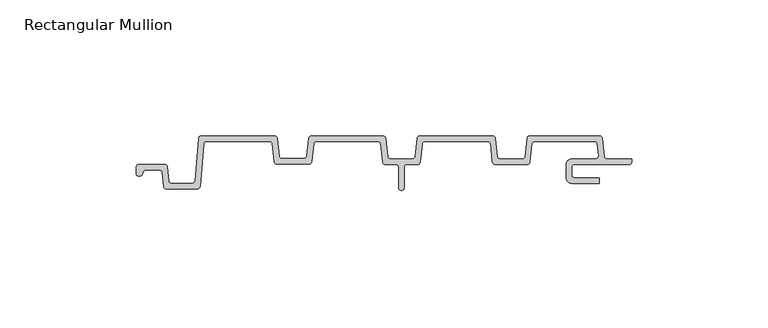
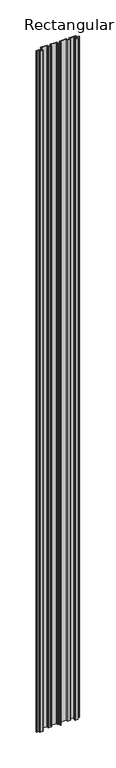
"""IFC4 building model written with IfcOpenShell, lengths in millimetres: member geometry, Rectangular Mullion : Cladding_Aluminium_Modinex_AluSelekta_Castelation_ScreenClad_160Ultra_AfricanEbony."""

import ifcopenshell
import ifcopenshell.guid

model = None  # the IFC model being written
_history = None  # IfcOwnerHistory: only IFC2X3 demands one
_inside = {}  # id of a spatial element -> (the spatial element, [elements in it])
_under = {}  # id of a project, library or spatial element -> (it, [spatial elements below it])
_declared = {}  # id of a project -> (the project, [libraries it declares])
_typed = {}  # id of a type object -> (the type object, [elements of that type])
_made_of = {}  # id of a material, layer set ... -> (it, [elements and type objects made of it])


def new_model(schema):
    """Start an empty IFC model of exactly this schema.

    Asked for "IFC4X3", IfcOpenShell would pick the latest addendum, in which some entities
    have other attributes; the version numbers below select the first issue.
    IFC2X3 requires an IfcOwnerHistory on every rooted entity: one is made here for all.
    """
    global model, _history
    if schema == "IFC4X3":
        model = ifcopenshell.file(schema_version=(4, 3, 0, 0))
    else:
        model = ifcopenshell.file(schema=schema)
    _inside.clear()
    _under.clear()
    _declared.clear()
    _typed.clear()
    _made_of.clear()
    _history = None
    if model.schema == "IFC2X3":
        org = make("IfcOrganization", Name="unknown")
        user = make(
            "IfcPersonAndOrganization",
            ThePerson=make("IfcPerson", FamilyName="unknown"),
            TheOrganization=org,
        )
        app = make(
            "IfcApplication",
            ApplicationDeveloper=org,
            Version="unknown",
            ApplicationFullName="unknown",
            ApplicationIdentifier="unknown",
        )
        _history = make(
            "IfcOwnerHistory",
            OwningUser=user,
            OwningApplication=app,
            ChangeAction="ADDED",
            CreationDate=0,
        )
    return model


def make(cls, **values):
    """One entity of the class cls with the attributes given. An attribute that is None is left unset."""
    return model.create_entity(
        cls, **{name: value for name, value in values.items() if value is not None}
    )


def rooted(cls, **values):
    """An entity with a GlobalId (a new one), such as an element, a storey or a relation."""
    return make(cls, GlobalId=ifcopenshell.guid.new(), OwnerHistory=_history, **values)


def si_unit(unit_type, name, prefix=None):
    """IfcSIUnit, for example si_unit("LENGTHUNIT", "METRE", prefix="MILLI")."""
    return make("IfcSIUnit", UnitType=unit_type, Prefix=prefix, Name=name)


def assignment(units):
    """IfcUnitAssignment: the units of a project."""
    return None if units is None else make("IfcUnitAssignment", Units=units)


def point(xyz):
    """IfcCartesianPoint."""
    return None if xyz is None else make("IfcCartesianPoint", Coordinates=xyz)


def direction(xyz):
    """IfcDirection."""
    return None if xyz is None else make("IfcDirection", DirectionRatios=xyz)


def frame(location, z_axis=None, x_axis=None):
    """IfcAxis2Placement3D, a coordinate frame: its origin and axes. An axis left out is left unset."""
    return make(
        "IfcAxis2Placement3D",
        Location=point(location),
        Axis=direction(z_axis),
        RefDirection=direction(x_axis),
    )


def origin():
    """The frame at (0, 0, 0) with its axes left unset."""
    return frame((0.0, 0.0, 0.0))


def place(relative_to, where):
    """IfcLocalPlacement: puts the frame where relative to a parent placement (None: the world)."""
    return make(
        "IfcLocalPlacement", PlacementRelTo=relative_to, RelativePlacement=where
    )


def context(
    kind, dimensions, precision=None, world=None, true_north=None, identifier=None
):
    """IfcGeometricRepresentationContext, for example the 3D "Model" context."""
    return make(
        "IfcGeometricRepresentationContext",
        ContextIdentifier=identifier,
        ContextType=kind,
        CoordinateSpaceDimension=dimensions,
        Precision=precision,
        WorldCoordinateSystem=world,
        TrueNorth=true_north,
    )


def project(units=None, contexts=None):
    """IfcProject with its units and contexts."""
    return rooted(
        "IfcProject",
        Name="project",
        RepresentationContexts=contexts,
        UnitsInContext=assignment(units),
    )


def spatial(cls, under=None, at=None, **own):
    """A site, building, storey or space (cls), placed at a placement, below another one or the project."""
    s = rooted(cls, ObjectPlacement=at, **own)
    if under is not None:
        _under.setdefault(under.id(), (under, []))[1].append(s)
    return s


def polyline(points):
    """IfcPolyline through the points."""
    return make("IfcPolyline", Points=[point(p) for p in points])


def circle_curve(where, radius):
    """IfcCircle in the frame where."""
    return make("IfcCircle", Position=where, Radius=radius)


def shape(context_of_items, identifier, shape_type, items):
    """IfcShapeRepresentation: the items that make up one representation, for example the "Body"."""
    return make(
        "IfcShapeRepresentation",
        ContextOfItems=context_of_items,
        RepresentationIdentifier=identifier,
        RepresentationType=shape_type,
        Items=items,
    )


def source(mapping_origin, context_of_items, identifier, shape_type, items):
    """IfcRepresentationMap: a shape defined once, which mapped items show again and again."""
    return make(
        "IfcRepresentationMap",
        MappingOrigin=mapping_origin,
        MappedRepresentation=shape(context_of_items, identifier, shape_type, items),
    )


def transform(
    local_origin,
    x_axis=None,
    y_axis=None,
    z_axis=None,
    scale=None,
    scale2=None,
    scale3=None,
    uniform=True,
):
    """IfcCartesianTransformationOperator3D, or its non-uniform kind. x_axis, y_axis, z_axis: its Axis1, 2, 3."""
    if uniform:
        return make(
            "IfcCartesianTransformationOperator3D",
            Axis1=direction(x_axis),
            Axis2=direction(y_axis),
            LocalOrigin=point(local_origin),
            Scale=scale,
            Axis3=direction(z_axis),
        )
    return make(
        "IfcCartesianTransformationOperator3DnonUniform",
        Axis1=direction(x_axis),
        Axis2=direction(y_axis),
        LocalOrigin=point(local_origin),
        Scale=scale,
        Axis3=direction(z_axis),
        Scale2=scale2,
        Scale3=scale3,
    )


def mapped(mapping_source, mapping_target):
    """IfcMappedItem: shows the shape of a source again, moved by a transform."""
    return make(
        "IfcMappedItem", MappingSource=mapping_source, MappingTarget=mapping_target
    )


def made_of(thing, what):
    """Note that an element or type object is made of a material, layer set ...; save() writes the relation."""
    if what is not None:
        _made_of.setdefault(what.id(), (what, []))[1].append(thing)
    return thing


def element(
    cls,
    number,
    at=None,
    inside=None,
    cuts=None,
    type_object=None,
    material=None,
    context=None,
    identifier="Body",
    shape_type=None,
    held_by="IfcProductDefinitionShape",
    body=None,
    shapes=None,
    **own,
):
    """One element of the class cls, such as IfcWall. Its Tag is "e" and its number.

    at: its placement. inside: the storey or other place that contains it. cuts: it is an
    opening in that element (IfcRelVoidsElement). A single representation is given by context,
    identifier, shape_type and body (its items); several are given by shapes. held_by: the class
    of the entity that holds the representations. save() writes the other relations.
    """
    e = rooted(cls, Tag="e%d" % number, ObjectPlacement=at, **own)
    if body is not None:
        shapes = [shape(context, identifier, shape_type, body)]
    if shapes is not None:
        e.Representation = make(held_by, Representations=shapes)
    if inside is not None:
        _inside.setdefault(inside.id(), (inside, []))[1].append(e)
    if cuts is not None:
        rooted(
            "IfcRelVoidsElement", RelatingBuildingElement=cuts, RelatedOpeningElement=e
        )
    if type_object is not None:
        _typed.setdefault(type_object.id(), (type_object, []))[1].append(e)
    return made_of(e, material)


def aggregate(whole, parts):
    """IfcRelAggregates: a whole, such as a stair, and the parts it consists of."""
    return rooted("IfcRelAggregates", RelatingObject=whole, RelatedObjects=parts)


def save(model, path):
    """Write the relations noted so far, then the file.

    IfcRelAggregates (storeys below a building ...), IfcRelContainedInSpatialStructure (elements
    in a storey), IfcRelDefinesByType, IfcRelAssociatesMaterial and IfcRelDeclares: one each for
    every whole, place, type object, material and project.
    """
    for whole, parts in _under.values():
        aggregate(whole, parts)
    for where, things in _inside.values():
        rooted(
            "IfcRelContainedInSpatialStructure",
            RelatedElements=things,
            RelatingStructure=where,
        )
    for kind, things in _typed.values():
        rooted("IfcRelDefinesByType", RelatedObjects=things, RelatingType=kind)
    for what, things in _made_of.values():
        rooted("IfcRelAssociatesMaterial", RelatedObjects=things, RelatingMaterial=what)
    for by, libraries in _declared.values():
        rooted("IfcRelDeclares", RelatingContext=by, RelatedDefinitions=libraries)
    model.write(path)


def plane_surface(at):
    """IfcPlane: the flat surface through the origin of the frame at, square to its z axis."""
    return make("IfcPlane", Position=at)


def cylinder_surface(at, radius):
    """IfcCylindricalSurface: all points at the distance radius from the z axis of the frame at."""
    return make("IfcCylindricalSurface", Position=at, Radius=radius)


def revolved_surface(curve, axis_point, axis_direction):
    """IfcSurfaceOfRevolution: the curve turned about the line through axis_point along axis_direction."""
    return make(
        "IfcSurfaceOfRevolution",
        SweptCurve=make("IfcArbitraryOpenProfileDef", ProfileType="CURVE", Curve=curve),
        AxisPosition=make("IfcAxis1Placement", Location=point(axis_point), Axis=direction(axis_direction)),
    )


def advanced_brep(points, edges, surfaces, faces):
    """IfcAdvancedBrep: a solid bounded by faces that lie on surfaces and meet in shared edges.

    An edge is (start, end): straight between two places in points (the first is 0);
    or (start, end, curve); or (start, end, curve, False) where it runs against its curve.
    A face is (place in surfaces, loops), or (place, loops, False) where it looks against
    its surface's normal. A loop lists edges by number (the first is 1), with a minus sign
    where the edge is run from its end to its start. The first loop is the outer one.
    """
    corners = [point(p) for p in points]
    vertices = [make("IfcVertexPoint", VertexGeometry=c) for c in corners]
    made = []
    for start, end, *more in edges:
        made.append(
            make(
                "IfcEdgeCurve",
                EdgeStart=vertices[start],
                EdgeEnd=vertices[end],
                EdgeGeometry=more[0] if more else make("IfcPolyline", Points=[corners[start], corners[end]]),
                SameSense=more[1] if len(more) > 1 else True,
            )
        )
    hull = []
    for where, loops, *sense in faces:
        bounds = []
        for j, loop in enumerate(loops):
            ring = [make("IfcOrientedEdge", EdgeElement=made[abs(k) - 1], Orientation=k > 0) for k in loop]
            bounds.append(
                make(
                    "IfcFaceOuterBound" if j == 0 else "IfcFaceBound",
                    Bound=make("IfcEdgeLoop", EdgeList=ring),
                    Orientation=True,
                )
            )
        hull.append(make("IfcAdvancedFace", Bounds=bounds, FaceSurface=surfaces[where], SameSense=sense[0] if sense else True))
    return make("IfcAdvancedBrep", Outer=make("IfcClosedShell", CfsFaces=hull))


def rectangular_mullion_73ab8564(model_context):
    return source(origin(), model_context, "Body", "AdvancedBrep", [
        advanced_brep(
        [(148.1602589, 20.0, 0.0), (122.4765681, 20.0, 0.0), (121.5130852, 19.1324761, 0.0), (120.809973, 12.44281, 0.0), (119.8133055, 11.5454066, 0.0), (111.5756582, 11.5454066, 0.0), (110.6257569, 12.4007015, 0.0), (109.9200552, 19.115005, 0.0), (108.9371687, 20.0, 0.0), (82.1423242, 20.0, 0.0), (81.1821995, 19.1354998, 0.0), (80.4798524, 12.4531135, 0.0), (79.4937471, 11.5652203, 0.0), (71.3225217, 11.5652203, 0.0), (70.2886934, 12.4960834, 0.0), (69.5912178, 19.1321205, 0.0), (68.62734, 20.0, 0.0), (42.3833962, 20.0, 0.0), (41.3513925, 19.0707797, 0.0), (40.6676465, 12.5653714, 0.0), (39.6854694, 11.6810151, 0.0), (31.4649351, 11.6810151, 0.0), (30.4827579, 12.5653714, 0.0), (29.7974463, 19.0760608, 0.0), (28.7713079, 20.0, 0.0), (1.9138829, 20.0, 0.0), (0.923703, 19.0893075, 0.0), (-0.3833621, 3.487992, 0.0), (-1.3753125, 2.5756712, 0.0), (-9.1200976, 2.5756712, 0.0), (-10.0804388, 3.4556618, 0.0), (-10.5259845, 8.5482728, 0.0), (-11.510796, 9.4506863, 0.0), (-21.0140298, 9.4506863, 0.0), (-22.0, 8.4647161, 0.0), (-22.0, 6.2482227, 0.0), (-20.8523694, 5.2397106, 0.0), (-19.8110334, 5.8709666, 0.0), (-19.4708589, 6.8055885, 0.0), (-18.5495637, 7.4506863, 0.0), (-13.3768988, 7.4506863, 0.0), (-12.3557323, 6.5149597, 0.0), (-11.9131934, 1.4567168, 0.0), (-10.9517008, 0.5756712, 0.0), (0.4714254, 0.5756712, 0.0), (1.4554776, 1.4807279, 0.0), (2.7629042, 17.0863575, 0.0), (3.7562917, 18.0, 0.0), (27.0330675, 18.0, 0.0), (27.9900981, 17.1382857, 0.0), (28.682504, 10.5504841, 0.0), (29.6481471, 9.6810151, 0.0), (41.4579318, 9.6810151, 0.0), (42.4714176, 10.5935618, 0.0), (43.1543153, 17.0908994, 0.0), (44.1639737, 18.0, 0.0), (66.7630477, 18.0, 0.0), (67.7970456, 17.0689841, 0.0), (68.4905354, 10.4708694, 0.0), (69.4963607, 9.5652203, 0.0), (73.398788, 9.5652203, 0.0), (74.398788, 8.5652203, 0.0), (74.398788, 1.0, 0.0), (76.398788, 1.0, 0.0), (76.398788, 8.5652203, 0.0), (77.398788, 9.5652203, 0.0), (81.3012153, 9.5652203, 0.0), (82.2799643, 10.4464898, 0.0), (82.9804289, 17.1109646, 0.0), (83.9678027, 18.0, 0.0), (107.1183499, 18.0, 0.0), (108.1211298, 17.097093, 0.0), (108.8183267, 10.4637071, 0.0), (109.8382028, 9.5454066, 0.0), (121.6376257, 9.5454066, 0.0), (122.6083234, 10.4194267, 0.0), (123.3115748, 17.1104167, 0.0), (124.2995571, 18.0, 0.0), (146.3008245, 18.0, 0.0), (147.3133998, 17.0882732, 0.0), (147.7761303, 12.6856863, 0.0), (146.7710049, 11.5693815, 0.0), (137.950859, 11.5693815, 0.0), (135.950859, 9.5693815, 0.0), (135.950859, 4.6193278, 0.0), (137.950859, 2.6193278, 0.0), (147.950859, 2.6193278, 0.0), (147.950859, 4.5693815, 0.0), (138.9358682, 4.5693815, 0.0), (137.950859, 5.5543908, 0.0), (137.950859, 8.6144534, 0.0), (138.9057871, 9.5693815, 0.0), (158.9750981, 9.5693815, 0.0), (160.0, 10.5942835, 0.0), (160.0, 11.5693815, 0.0), (150.7652107, 11.5693815, 0.0), (149.8145038, 12.4254019, 0.0), (149.1080797, 19.1465783, 0.0), (148.1602589, 20.0, -3000.0), (149.1080797, 19.1465783, -3000.0), (149.8145038, 12.4254019, -3000.0), (150.7652107, 11.5693815, -3000.0), (160.0, 11.5693815, -3000.0), (160.0, 10.5942835, -3000.0), (158.9750981, 9.5693815, -3000.0), (138.9057871, 9.5693815, -3000.0), (137.950859, 8.6144534, -3000.0), (137.950859, 5.5543908, -3000.0), (138.9358682, 4.5693815, -3000.0), (147.950859, 4.5693815, -3000.0), (147.950859, 2.6193278, -3000.0), (137.950859, 2.6193278, -3000.0), (135.950859, 4.6193278, -3000.0), (135.950859, 9.5693815, -3000.0), (137.950859, 11.5693815, -3000.0), (146.7710049, 11.5693815, -3000.0), (147.7761303, 12.6856863, -3000.0), (147.3133998, 17.0882732, -3000.0), (146.3008245, 18.0, -3000.0), (124.2995571, 18.0, -3000.0), (123.3115748, 17.1104167, -3000.0), (122.6083234, 10.4194267, -3000.0), (121.6376257, 9.5454066, -3000.0), (109.8382028, 9.5454066, -3000.0), (108.8183267, 10.4637071, -3000.0), (108.1211298, 17.097093, -3000.0), (107.1183499, 18.0, -3000.0), (83.9678027, 18.0, -3000.0), (82.9804289, 17.1109646, -3000.0), (82.2799643, 10.4464898, -3000.0), (81.3012153, 9.5652203, -3000.0), (77.398788, 9.5652203, -3000.0), (76.398788, 8.5652203, -3000.0), (76.398788, 1.0, -3000.0), (74.398788, 1.0, -3000.0), (74.398788, 8.5652203, -3000.0), (73.398788, 9.5652203, -3000.0), (69.4963607, 9.5652203, -3000.0), (68.4905354, 10.4708694, -3000.0), (67.7970456, 17.0689841, -3000.0), (66.7630477, 18.0, -3000.0), (44.1639737, 18.0, -3000.0), (43.1543153, 17.0908994, -3000.0), (42.4714176, 10.5935618, -3000.0), (41.4579318, 9.6810151, -3000.0), (29.6481471, 9.6810151, -3000.0), (28.682504, 10.5504841, -3000.0), (27.9900981, 17.1382857, -3000.0), (27.0330675, 18.0, -3000.0), (3.7562917, 18.0, -3000.0), (2.7629042, 17.0863575, -3000.0), (1.4554776, 1.4807279, -3000.0), (0.4714254, 0.5756712, -3000.0), (-10.9517008, 0.5756712, -3000.0), (-11.9131934, 1.4567168, -3000.0), (-12.3557323, 6.5149597, -3000.0), (-13.3768988, 7.4506863, -3000.0), (-18.5495637, 7.4506863, -3000.0), (-19.4708589, 6.8055885, -3000.0), (-19.8110334, 5.8709666, -3000.0), (-20.8523694, 5.2397106, -3000.0), (-22.0, 6.2482227, -3000.0), (-22.0, 8.4647161, -3000.0), (-21.0140298, 9.4506863, -3000.0), (-11.510796, 9.4506863, -3000.0), (-10.5259845, 8.5482728, -3000.0), (-10.0804388, 3.4556618, -3000.0), (-9.1200976, 2.5756712, -3000.0), (-1.3753125, 2.5756712, -3000.0), (-0.3833621, 3.487992, -3000.0), (0.923703, 19.0893075, -3000.0), (1.9138829, 20.0, -3000.0), (28.7713079, 20.0, -3000.0), (29.7974463, 19.0760608, -3000.0), (30.4817584, 12.5652664, -3000.0), (31.4649351, 11.6810151, -3000.0), (39.6854694, 11.6810151, -3000.0), (40.6676465, 12.5653714, -3000.0), (41.3513925, 19.0707797, -3000.0), (42.3833962, 20.0, -3000.0), (68.62734, 20.0, -3000.0), (69.5912178, 19.1321205, -3000.0), (70.2886934, 12.4960834, -3000.0), (71.3225217, 11.5652203, -3000.0), (79.4937471, 11.5652203, -3000.0), (80.4798524, 12.4531135, -3000.0), (81.1821995, 19.1354998, -3000.0), (82.1423242, 20.0, -3000.0), (108.9371687, 20.0, -3000.0), (109.9200552, 19.115005, -3000.0), (110.6257569, 12.4007015, -3000.0), (111.5756582, 11.5454066, -3000.0), (119.8133055, 11.5454066, -3000.0), (120.809973, 12.44281, -3000.0), (121.5130852, 19.1324761, -3000.0), (122.4765681, 20.0, -3000.0)],
        [
            (0, 1),
            (1, 2, circle_curve(frame((122.4765681, 19.03121, 0.0), z_axis=(0.0, 0.0, 1.0), x_axis=(1.0, 0.0, 0.0)), 0.96879)),
            (2, 3),
            (3, 4, circle_curve(frame((119.8133055, 12.5475639, 0.0), z_axis=(0.0, 0.0, -1.0), x_axis=(1.0, 0.0, 0.0)), 1.0021574)),
            (4, 5),
            (5, 6, circle_curve(frame((111.5756582, 12.5005401, 0.0), z_axis=(0.0, 0.0, -1.0), x_axis=(1.0, 0.0, 0.0)), 0.9551336)),
            (6, 7),
            (7, 8, circle_curve(frame((108.9371687, 19.0116994, 0.0), z_axis=(0.0, 0.0, 1.0), x_axis=(1.0, 0.0, 0.0)), 0.9883006)),
            (8, 9),
            (9, 10, circle_curve(frame((82.1423242, 19.0345866, 0.0), z_axis=(0.0, 0.0, 1.0), x_axis=(1.0, 0.0, 0.0)), 0.9654134)),
            (10, 11),
            (11, 12, circle_curve(frame((79.4937471, 12.5567573, 0.0), z_axis=(0.0, 0.0, -1.0), x_axis=(1.0, 0.0, 0.0)), 0.9915371)),
            (12, 13),
            (13, 14, circle_curve(frame((71.3225217, 12.6047432, 0.0), z_axis=(0.0, 0.0, -1.0), x_axis=(1.0, 0.0, 0.0)), 1.0395229)),
            (14, 15),
            (15, 16, circle_curve(frame((68.62734, 19.0308129, 0.0), z_axis=(0.0, 0.0, 1.0), x_axis=(1.0, 0.0, 0.0)), 0.9691871)),
            (16, 17),
            (17, 18, circle_curve(frame((42.3833962, 18.9623117, 0.0), z_axis=(0.0, 0.0, 1.0), x_axis=(1.0, 0.0, 0.0)), 1.0376883)),
            (18, 19),
            (19, 20, circle_curve(frame((39.6854694, 12.6686024, 0.0), z_axis=(0.0, 0.0, -1.0), x_axis=(1.0, 0.0, 0.0)), 0.9875873)),
            (20, 21),
            (21, 22, circle_curve(frame((31.4649351, 12.6686024, 0.0), z_axis=(0.0, 0.0, -1.0), x_axis=(1.0, 0.0, 0.0)), 0.9875873)),
            (22, 23),
            (23, 24, circle_curve(frame((28.7713079, 18.9682093, 0.0), z_axis=(0.0, 0.0, 1.0), x_axis=(1.0, 0.0, 0.0)), 1.0317907)),
            (24, 25),
            (25, 26, circle_curve(frame((1.9138829, 19.0063511, 0.0), z_axis=(0.0, 0.0, 1.0), x_axis=(1.0, 0.0, 0.0)), 0.9936489)),
            (26, 27),
            (27, 28, circle_curve(frame((-1.3753125, 3.5710967, 0.0), z_axis=(0.0, 0.0, -1.0), x_axis=(1.0, 0.0, 0.0)), 0.9954255)),
            (28, 29),
            (29, 30, circle_curve(frame((-9.1200976, 3.5396807, 0.0), z_axis=(0.0, 0.0, -1.0), x_axis=(1.0, 0.0, 0.0)), 0.9640095)),
            (30, 31),
            (31, 32, circle_curve(frame((-11.510796, 8.462113, 0.0), z_axis=(0.0, 0.0, 1.0), x_axis=(1.0, 0.0, 0.0)), 0.9885733)),
            (32, 33),
            (33, 34, circle_curve(frame((-21.0140298, 8.4647161, 0.0), z_axis=(0.0, 0.0, 1.0), x_axis=(1.0, 0.0, 0.0)), 0.9859702)),
            (34, 35),
            (35, 36, circle_curve(frame((-20.9830557, 6.2482227, 0.0), z_axis=(0.0, 0.0, 1.0), x_axis=(1.0, 0.0, 0.0)), 1.0169443)),
            (36, 37, circle_curve(frame((-20.7246028, 6.2034786, 0.0), z_axis=(0.0, 0.0, 1.0), x_axis=(1.0, 0.0, 0.0)), 0.9722002)),
            (37, 38),
            (38, 39, circle_curve(frame((-18.5495637, 6.4702644, 0.0), z_axis=(0.0, 0.0, -1.0), x_axis=(1.0, 0.0, 0.0)), 0.9804219)),
            (39, 40),
            (40, 41, circle_curve(frame((-13.3768988, 6.4256192, 0.0), z_axis=(0.0, 0.0, -1.0), x_axis=(1.0, 0.0, 0.0)), 1.0250672)),
            (41, 42),
            (42, 43, circle_curve(frame((-10.9517008, 1.5408365, 0.0), z_axis=(0.0, 0.0, 1.0), x_axis=(1.0, 0.0, 0.0)), 0.9651653)),
            (43, 44),
            (44, 45, circle_curve(frame((0.4714254, 1.5631709, 0.0), z_axis=(0.0, 0.0, 1.0), x_axis=(1.0, 0.0, 0.0)), 0.9874997)),
            (45, 46),
            (46, 47, circle_curve(frame((3.7562917, 17.0031323, 0.0), z_axis=(0.0, 0.0, -1.0), x_axis=(1.0, 0.0, 0.0)), 0.9968677)),
            (47, 48),
            (48, 49, circle_curve(frame((27.0330675, 17.0376977, 0.0), z_axis=(0.0, 0.0, -1.0), x_axis=(1.0, 0.0, 0.0)), 0.9623023)),
            (49, 50),
            (50, 51, circle_curve(frame((29.6481471, 10.6519773, 0.0), z_axis=(0.0, 0.0, 1.0), x_axis=(1.0, 0.0, 0.0)), 0.9709621)),
            (51, 52),
            (52, 53, circle_curve(frame((41.4579318, 10.7000835, 0.0), z_axis=(0.0, 0.0, 1.0), x_axis=(1.0, 0.0, 0.0)), 1.0190684)),
            (53, 54),
            (54, 55, circle_curve(frame((44.1639737, 16.9847801, 0.0), z_axis=(0.0, 0.0, -1.0), x_axis=(1.0, 0.0, 0.0)), 1.0152199)),
            (55, 56),
            (56, 57, circle_curve(frame((66.7630477, 16.9603066, 0.0), z_axis=(0.0, 0.0, -1.0), x_axis=(1.0, 0.0, 0.0)), 1.0396934)),
            (57, 58),
            (58, 59, circle_curve(frame((69.4963607, 10.5765859, 0.0), z_axis=(0.0, 0.0, 1.0), x_axis=(1.0, 0.0, 0.0)), 1.0113656)),
            (59, 60),
            (60, 61, circle_curve(frame((73.398788, 8.5652203, 0.0), z_axis=(0.0, 0.0, -1.0), x_axis=(1.0, 0.0, 0.0)), 1.0)),
            (61, 62),
            (62, 63, circle_curve(frame((75.398788, 1.0, 0.0), z_axis=(0.0, 0.0, 1.0), x_axis=(1.0, 0.0, 0.0)), 1.0)),
            (63, 64),
            (64, 65, circle_curve(frame((77.398788, 8.5652203, 0.0), z_axis=(0.0, 0.0, -1.0), x_axis=(1.0, 0.0, 0.0)), 1.0)),
            (65, 66),
            (66, 67, circle_curve(frame((81.3012153, 10.5493605, 0.0), z_axis=(0.0, 0.0, 1.0), x_axis=(1.0, 0.0, 0.0)), 0.9841402)),
            (67, 68),
            (68, 69, circle_curve(frame((83.9678027, 17.0071874, 0.0), z_axis=(0.0, 0.0, -1.0), x_axis=(1.0, 0.0, 0.0)), 0.9928126)),
            (69, 70),
            (70, 71, circle_curve(frame((107.1183499, 16.9916966, 0.0), z_axis=(0.0, 0.0, -1.0), x_axis=(1.0, 0.0, 0.0)), 1.0083034)),
            (71, 72),
            (72, 73, circle_curve(frame((109.8382028, 10.5709004, 0.0), z_axis=(0.0, 0.0, 1.0), x_axis=(1.0, 0.0, 0.0)), 1.0254939)),
            (73, 74),
            (74, 75, circle_curve(frame((121.6376257, 10.5214512, 0.0), z_axis=(0.0, 0.0, 1.0), x_axis=(1.0, 0.0, 0.0)), 0.9760446)),
            (75, 76),
            (76, 77, circle_curve(frame((124.2995571, 17.0065755, 0.0), z_axis=(0.0, 0.0, -1.0), x_axis=(1.0, 0.0, 0.0)), 0.9934245)),
            (77, 78),
            (78, 79, circle_curve(frame((146.3008245, 16.9818472, 0.0), z_axis=(0.0, 0.0, -1.0), x_axis=(1.0, 0.0, 0.0)), 1.0181528)),
            (79, 80),
            (80, 81, circle_curve(frame((146.7710049, 12.5800434, 0.0), z_axis=(0.0, 0.0, -1.0), x_axis=(1.0, 0.0, 0.0)), 1.0106619)),
            (81, 82),
            (82, 83, circle_curve(frame((137.950859, 9.5693815, 0.0), z_axis=(0.0, 0.0, 1.0), x_axis=(1.0, 0.0, 0.0)), 2.0)),
            (83, 84),
            (84, 85, circle_curve(frame((137.950859, 4.6193278, 0.0), z_axis=(0.0, 0.0, 1.0), x_axis=(1.0, 0.0, 0.0)), 2.0)),
            (85, 86),
            (86, 87),
            (87, 88),
            (88, 89, circle_curve(frame((138.9358682, 5.5543908, 0.0), z_axis=(0.0, 0.0, -1.0), x_axis=(1.0, 0.0, 0.0)), 0.9850092)),
            (89, 90),
            (90, 91, circle_curve(frame((138.9057871, 8.6144534, 0.0), z_axis=(0.0, 0.0, -1.0), x_axis=(1.0, 0.0, 0.0)), 0.9549281)),
            (91, 92),
            (92, 93, circle_curve(frame((158.9750981, 10.5942835, 0.0), z_axis=(0.0, 0.0, 1.0), x_axis=(1.0, 0.0, 0.0)), 1.0249019)),
            (93, 94),
            (94, 95),
            (95, 96, circle_curve(frame((150.7652107, 12.5253252, 0.0), z_axis=(0.0, 0.0, -1.0), x_axis=(1.0, 0.0, 0.0)), 0.9559437)),
            (96, 97),
            (97, 0, circle_curve(frame((148.1602589, 19.0469583, 0.0), z_axis=(0.0, 0.0, 1.0), x_axis=(1.0, 0.0, 0.0)), 0.9530417)),
            (98, 99, circle_curve(frame((148.1602589, 19.0469583, -3000.0), z_axis=(0.0, 0.0, -1.0), x_axis=(1.0, 0.0, 0.0)), 0.9530417)),
            (99, 100),
            (100, 101, circle_curve(frame((150.7652107, 12.5253252, -3000.0), z_axis=(0.0, 0.0, 1.0), x_axis=(1.0, 0.0, 0.0)), 0.9559437)),
            (101, 102),
            (102, 103),
            (103, 104, circle_curve(frame((158.9750981, 10.5942835, -3000.0), z_axis=(0.0, 0.0, -1.0), x_axis=(1.0, 0.0, 0.0)), 1.0249019)),
            (104, 105),
            (105, 106, circle_curve(frame((138.9057871, 8.6144534, -3000.0), z_axis=(0.0, 0.0, 1.0), x_axis=(1.0, 0.0, 0.0)), 0.9549281)),
            (106, 107),
            (107, 108, circle_curve(frame((138.9358682, 5.5543908, -3000.0), z_axis=(0.0, 0.0, 1.0), x_axis=(1.0, 0.0, 0.0)), 0.9850092)),
            (108, 109),
            (109, 110),
            (110, 111),
            (111, 112, circle_curve(frame((137.950859, 4.6193278, -3000.0), z_axis=(0.0, 0.0, -1.0), x_axis=(1.0, 0.0, 0.0)), 2.0)),
            (112, 113),
            (113, 114, circle_curve(frame((137.950859, 9.5693815, -3000.0), z_axis=(0.0, 0.0, -1.0), x_axis=(1.0, 0.0, 0.0)), 2.0)),
            (114, 115),
            (115, 116, circle_curve(frame((146.7710049, 12.5800434, -3000.0), z_axis=(0.0, 0.0, 1.0), x_axis=(1.0, 0.0, 0.0)), 1.0106619)),
            (116, 117),
            (117, 118, circle_curve(frame((146.3008245, 16.9818472, -3000.0), z_axis=(0.0, 0.0, 1.0), x_axis=(1.0, 0.0, 0.0)), 1.0181528)),
            (118, 119),
            (119, 120, circle_curve(frame((124.2995571, 17.0065755, -3000.0), z_axis=(0.0, 0.0, 1.0), x_axis=(1.0, 0.0, 0.0)), 0.9934245)),
            (120, 121),
            (121, 122, circle_curve(frame((121.6376257, 10.5214512, -3000.0), z_axis=(0.0, 0.0, -1.0), x_axis=(1.0, 0.0, 0.0)), 0.9760446)),
            (122, 123),
            (123, 124, circle_curve(frame((109.8382028, 10.5709004, -3000.0), z_axis=(0.0, 0.0, -1.0), x_axis=(1.0, 0.0, 0.0)), 1.0254939)),
            (124, 125),
            (125, 126, circle_curve(frame((107.1183499, 16.9916966, -3000.0), z_axis=(0.0, 0.0, 1.0), x_axis=(1.0, 0.0, 0.0)), 1.0083034)),
            (126, 127),
            (127, 128, circle_curve(frame((83.9678027, 17.0071874, -3000.0), z_axis=(0.0, 0.0, 1.0), x_axis=(1.0, 0.0, 0.0)), 0.9928126)),
            (128, 129),
            (129, 130, circle_curve(frame((81.3012153, 10.5493605, -3000.0), z_axis=(0.0, 0.0, -1.0), x_axis=(1.0, 0.0, 0.0)), 0.9841402)),
            (130, 131),
            (131, 132, circle_curve(frame((77.398788, 8.5652203, -3000.0), z_axis=(0.0, 0.0, 1.0), x_axis=(1.0, 0.0, 0.0)), 1.0)),
            (132, 133),
            (133, 134, circle_curve(frame((75.398788, 1.0, -3000.0), z_axis=(0.0, 0.0, -1.0), x_axis=(1.0, 0.0, 0.0)), 1.0)),
            (134, 135),
            (135, 136, circle_curve(frame((73.398788, 8.5652203, -3000.0), z_axis=(0.0, 0.0, 1.0), x_axis=(1.0, 0.0, 0.0)), 1.0)),
            (136, 137),
            (137, 138, circle_curve(frame((69.4963607, 10.5765859, -3000.0), z_axis=(0.0, 0.0, -1.0), x_axis=(1.0, 0.0, 0.0)), 1.0113656)),
            (138, 139),
            (139, 140, circle_curve(frame((66.7630477, 16.9603066, -3000.0), z_axis=(0.0, 0.0, 1.0), x_axis=(1.0, 0.0, 0.0)), 1.0396934)),
            (140, 141),
            (141, 142, circle_curve(frame((44.1639737, 16.9847801, -3000.0), z_axis=(0.0, 0.0, 1.0), x_axis=(1.0, 0.0, 0.0)), 1.0152199)),
            (142, 143),
            (143, 144, circle_curve(frame((41.4579318, 10.7000835, -3000.0), z_axis=(0.0, 0.0, -1.0), x_axis=(1.0, 0.0, 0.0)), 1.0190684)),
            (144, 145),
            (145, 146, circle_curve(frame((29.6481471, 10.6519773, -3000.0), z_axis=(0.0, 0.0, -1.0), x_axis=(1.0, 0.0, 0.0)), 0.9709621)),
            (146, 147),
            (147, 148, circle_curve(frame((27.0330675, 17.0376977, -3000.0), z_axis=(0.0, 0.0, 1.0), x_axis=(1.0, 0.0, 0.0)), 0.9623023)),
            (148, 149),
            (149, 150, circle_curve(frame((3.7562917, 17.0031323, -3000.0), z_axis=(0.0, 0.0, 1.0), x_axis=(1.0, 0.0, 0.0)), 0.9968677)),
            (150, 151),
            (151, 152, circle_curve(frame((0.4714254, 1.5631709, -3000.0), z_axis=(0.0, 0.0, -1.0), x_axis=(1.0, 0.0, 0.0)), 0.9874997)),
            (152, 153),
            (153, 154, circle_curve(frame((-10.9517008, 1.5408365, -3000.0), z_axis=(0.0, 0.0, -1.0), x_axis=(1.0, 0.0, 0.0)), 0.9651653)),
            (154, 155),
            (155, 156, circle_curve(frame((-13.3768988, 6.4256192, -3000.0), z_axis=(0.0, 0.0, 1.0), x_axis=(1.0, 0.0, 0.0)), 1.0250672)),
            (156, 157),
            (157, 158, circle_curve(frame((-18.5495637, 6.4702644, -3000.0), z_axis=(0.0, 0.0, 1.0), x_axis=(1.0, 0.0, 0.0)), 0.9804219)),
            (158, 159),
            (159, 160, circle_curve(frame((-20.7246028, 6.2034786, -3000.0), z_axis=(0.0, 0.0, -1.0), x_axis=(1.0, 0.0, 0.0)), 0.9722002)),
            (160, 161, circle_curve(frame((-20.9830557, 6.2482227, -3000.0), z_axis=(0.0, 0.0, -1.0), x_axis=(1.0, 0.0, 0.0)), 1.0169443)),
            (161, 162),
            (162, 163, circle_curve(frame((-21.0140298, 8.4647161, -3000.0), z_axis=(0.0, 0.0, -1.0), x_axis=(1.0, 0.0, 0.0)), 0.9859702)),
            (163, 164),
            (164, 165, circle_curve(frame((-11.510796, 8.462113, -3000.0), z_axis=(0.0, 0.0, -1.0), x_axis=(1.0, 0.0, 0.0)), 0.9885733)),
            (165, 166),
            (166, 167, circle_curve(frame((-9.1200976, 3.5396807, -3000.0), z_axis=(0.0, 0.0, 1.0), x_axis=(1.0, 0.0, 0.0)), 0.9640095)),
            (167, 168),
            (168, 169, circle_curve(frame((-1.3753125, 3.5710967, -3000.0), z_axis=(0.0, 0.0, 1.0), x_axis=(1.0, 0.0, 0.0)), 0.9954255)),
            (169, 170),
            (170, 171, circle_curve(frame((1.9138829, 19.0063511, -3000.0), z_axis=(0.0, 0.0, -1.0), x_axis=(1.0, 0.0, 0.0)), 0.9936489)),
            (171, 172),
            (172, 173, circle_curve(frame((28.7713079, 18.9682093, -3000.0), z_axis=(0.0, 0.0, -1.0), x_axis=(1.0, 0.0, 0.0)), 1.0317907)),
            (173, 174),
            (174, 175, circle_curve(frame((31.4649351, 12.6686024, -3000.0), z_axis=(0.0, 0.0, 1.0), x_axis=(1.0, 0.0, 0.0)), 0.9875873)),
            (175, 176),
            (176, 177, circle_curve(frame((39.6854694, 12.6686024, -3000.0), z_axis=(0.0, 0.0, 1.0), x_axis=(1.0, 0.0, 0.0)), 0.9875873)),
            (177, 178),
            (178, 179, circle_curve(frame((42.3833962, 18.9623117, -3000.0), z_axis=(0.0, 0.0, -1.0), x_axis=(1.0, 0.0, 0.0)), 1.0376883)),
            (179, 180),
            (180, 181, circle_curve(frame((68.62734, 19.0308129, -3000.0), z_axis=(0.0, 0.0, -1.0), x_axis=(1.0, 0.0, 0.0)), 0.9691871)),
            (181, 182),
            (182, 183, circle_curve(frame((71.3225217, 12.6047432, -3000.0), z_axis=(0.0, 0.0, 1.0), x_axis=(1.0, 0.0, 0.0)), 1.0395229)),
            (183, 184),
            (184, 185, circle_curve(frame((79.4937471, 12.5567573, -3000.0), z_axis=(0.0, 0.0, 1.0), x_axis=(1.0, 0.0, 0.0)), 0.9915371)),
            (185, 186),
            (186, 187, circle_curve(frame((82.1423242, 19.0345866, -3000.0), z_axis=(0.0, 0.0, -1.0), x_axis=(1.0, 0.0, 0.0)), 0.9654134)),
            (187, 188),
            (188, 189, circle_curve(frame((108.9371687, 19.0116994, -3000.0), z_axis=(0.0, 0.0, -1.0), x_axis=(1.0, 0.0, 0.0)), 0.9883006)),
            (189, 190),
            (190, 191, circle_curve(frame((111.5756582, 12.5005401, -3000.0), z_axis=(0.0, 0.0, 1.0), x_axis=(1.0, 0.0, 0.0)), 0.9551336)),
            (191, 192),
            (192, 193, circle_curve(frame((119.8133055, 12.5475639, -3000.0), z_axis=(0.0, 0.0, 1.0), x_axis=(1.0, 0.0, 0.0)), 1.0021574)),
            (193, 194),
            (194, 195, circle_curve(frame((122.4765681, 19.03121, -3000.0), z_axis=(0.0, 0.0, -1.0), x_axis=(1.0, 0.0, 0.0)), 0.96879)),
            (195, 98),
            (0, 98),
            (195, 1),
            (194, 2),
            (193, 3),
            (192, 4),
            (191, 5),
            (190, 6),
            (189, 7),
            (188, 8),
            (187, 9),
            (186, 10),
            (185, 11),
            (184, 12),
            (183, 13),
            (182, 14),
            (181, 15),
            (180, 16),
            (179, 17),
            (178, 18),
            (177, 19),
            (176, 20),
            (175, 21),
            (174, 22),
            (173, 23),
            (172, 24),
            (171, 25),
            (170, 26),
            (169, 27),
            (168, 28),
            (167, 29),
            (166, 30),
            (165, 31),
            (164, 32),
            (163, 33),
            (162, 34),
            (161, 35),
            (160, 36),
            (159, 37),
            (158, 38),
            (157, 39),
            (156, 40),
            (155, 41),
            (154, 42),
            (153, 43),
            (152, 44),
            (151, 45),
            (150, 46),
            (149, 47),
            (148, 48),
            (147, 49),
            (146, 50),
            (145, 51),
            (144, 52),
            (143, 53),
            (142, 54),
            (141, 55),
            (140, 56),
            (139, 57),
            (138, 58),
            (137, 59),
            (136, 60),
            (135, 61),
            (134, 62),
            (133, 63),
            (132, 64),
            (131, 65),
            (130, 66),
            (129, 67),
            (128, 68),
            (127, 69),
            (126, 70),
            (125, 71),
            (124, 72),
            (123, 73),
            (122, 74),
            (121, 75),
            (120, 76),
            (119, 77),
            (118, 78),
            (117, 79),
            (116, 80),
            (115, 81),
            (114, 82),
            (113, 83),
            (112, 84),
            (111, 85),
            (110, 86),
            (109, 87),
            (108, 88),
            (107, 89),
            (106, 90),
            (105, 91),
            (104, 92),
            (103, 93),
            (102, 94),
            (101, 95),
            (100, 96),
            (99, 97),
        ],
        [
            plane_surface(frame((0.0, -160.4177378, 0.0), z_axis=(0.0, 0.0, 1.0), x_axis=(-1.0, 0.0, 0.0))),
            plane_surface(frame((0.0, -160.4177378, -3000.0), z_axis=(0.0, 0.0, -1.0), x_axis=(-1.0, 0.0, 0.0))),
            plane_surface(frame((148.1602589, 20.0, 0.0), z_axis=(0.0, 1.0, 0.0), x_axis=(0.0, 0.0, -1.0))),
            cylinder_surface(frame((122.4765681, 19.03121, 0.0), z_axis=(0.0, 0.0, 1.0), x_axis=(1.0, 0.0, 0.0)), 0.96879),
            plane_surface(frame((121.5130852, 19.1324761, 0.0), z_axis=(-0.9945218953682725, 0.10452846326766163, 0.0), x_axis=(0.0, 0.0, -1.0))),
            revolved_surface(polyline([(120.8154629, 12.5475639, -3000.0), (120.8154629, 12.5475639, 0.0)]), (119.8133055, 12.5475639, 0.0), (0.0, 0.0, -1.0)),
            plane_surface(frame((119.8133055, 11.5454066, 0.0), z_axis=(0.0, 1.0, 0.0), x_axis=(0.0, 0.0, -1.0))),
            revolved_surface(polyline([(112.5307918, 12.5005401, -3000.0), (112.5307918, 12.5005401, 0.0)]), (111.5756582, 12.5005401, 0.0), (0.0, 0.0, -1.0)),
            plane_surface(frame((110.6257569, 12.4007015, 0.0), z_axis=(0.994521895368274, 0.10452846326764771, 0.0), x_axis=(0.0, 0.0, -1.0))),
            cylinder_surface(frame((108.9371687, 19.0116994, 0.0), z_axis=(0.0, 0.0, 1.0), x_axis=(1.0, 0.0, 0.0)), 0.9883006),
            plane_surface(frame((108.9371687, 20.0, 0.0), z_axis=(0.0, 1.0, 0.0), x_axis=(0.0, 0.0, -1.0))),
            cylinder_surface(frame((82.1423242, 19.0345866, 0.0), z_axis=(0.0, 0.0, 1.0), x_axis=(1.0, 0.0, 0.0)), 0.9654134),
            plane_surface(frame((81.1821995, 19.1354998, 0.0), z_axis=(-0.9945218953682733, 0.10452846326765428, 0.0), x_axis=(0.0, 0.0, -1.0))),
            revolved_surface(polyline([(80.4852842, 12.5567573, -3000.0), (80.4852842, 12.5567573, 0.0)]), (79.4937471, 12.5567573, 0.0), (0.0, 0.0, -1.0)),
            plane_surface(frame((79.4937471, 11.5652203, 0.0), z_axis=(0.0, 1.0, 0.0), x_axis=(0.0, 0.0, -1.0))),
            revolved_surface(polyline([(72.36204459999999, 12.6047432, -3000.0), (72.36204459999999, 12.6047432, 0.0)]), (71.3225217, 12.6047432, 0.0), (0.0, 0.0, -1.0)),
            plane_surface(frame((70.2886934, 12.4960834, 0.0), z_axis=(0.9945218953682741, 0.10452846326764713, 0.0), x_axis=(0.0, 0.0, -1.0))),
            cylinder_surface(frame((68.62734, 19.0308129, 0.0), z_axis=(0.0, 0.0, 1.0), x_axis=(1.0, 0.0, 0.0)), 0.9691871),
            plane_surface(frame((68.62734, 20.0, 0.0), z_axis=(0.0, 1.0, 0.0), x_axis=(0.0, 0.0, -1.0))),
            cylinder_surface(frame((42.3833962, 18.9623117, 0.0), z_axis=(0.0, 0.0, 1.0), x_axis=(1.0, 0.0, 0.0)), 1.0376883),
            plane_surface(frame((41.3513925, 19.0707797, 0.0), z_axis=(-0.9945218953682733, 0.10452846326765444, 0.0), x_axis=(0.0, 0.0, -1.0))),
            revolved_surface(polyline([(40.673056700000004, 12.6686024, -3000.0), (40.673056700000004, 12.6686024, 0.0)]), (39.6854694, 12.6686024, 0.0), (0.0, 0.0, -1.0)),
            plane_surface(frame((39.6854694, 11.6810151, 0.0), z_axis=(0.0, 1.0, 0.0), x_axis=(0.0, 0.0, -1.0))),
            revolved_surface(polyline([(32.4525224, 12.6686024, -3000.0), (32.4525224, 12.6686024, 0.0)]), (31.4649351, 12.6686024, 0.0), (0.0, 0.0, -1.0)),
            plane_surface(frame((30.4817584, 12.5652664, 0.0), z_axis=(0.9945218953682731, 0.10452846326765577, 0.0), x_axis=(0.0, 0.0, -1.0))),
            cylinder_surface(frame((28.7713079, 18.9682093, 0.0), z_axis=(0.0, 0.0, 1.0), x_axis=(1.0, 0.0, 0.0)), 1.0317907),
            plane_surface(frame((28.7713079, 20.0, 0.0), z_axis=(0.0, 1.0, 0.0), x_axis=(0.0, 0.0, -1.0))),
            cylinder_surface(frame((1.9138829, 19.0063511, 0.0), z_axis=(0.0, 0.0, 1.0), x_axis=(1.0, 0.0, 0.0)), 0.9936489),
            plane_surface(frame((0.923703, 19.0893075, 0.0), z_axis=(-0.9965088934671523, 0.08348667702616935, 0.0), x_axis=(0.0, 0.0, -1.0))),
            revolved_surface(polyline([(-0.379887, 3.5710967, -3000.0), (-0.379887, 3.5710967, 0.0)]), (-1.3753125, 3.5710967, 0.0), (0.0, 0.0, -1.0)),
            plane_surface(frame((-1.3753125, 2.5756712, 0.0), z_axis=(0.0, 1.0, 0.0), x_axis=(0.0, 0.0, -1.0))),
            revolved_surface(polyline([(-8.1560881, 3.5396807, -3000.0), (-8.1560881, 3.5396807, 0.0)]), (-9.1200976, 3.5396807, 0.0), (0.0, 0.0, -1.0)),
            plane_surface(frame((-10.0804388, 3.4556618, 0.0), z_axis=(0.9961946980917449, 0.08715574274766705, 0.0), x_axis=(0.0, 0.0, -1.0))),
            cylinder_surface(frame((-11.510796, 8.462113, 0.0), z_axis=(0.0, 0.0, 1.0), x_axis=(1.0, 0.0, 0.0)), 0.9885733),
            plane_surface(frame((-11.510796, 9.4506863, 0.0), z_axis=(0.0, 1.0, 0.0), x_axis=(0.0, 0.0, -1.0))),
            cylinder_surface(frame((-21.0140298, 8.4647161, 0.0), z_axis=(0.0, 0.0, 1.0), x_axis=(1.0, 0.0, 0.0)), 0.9859702),
            plane_surface(frame((-22.0, 8.4647161, 0.0), z_axis=(-1.0, 0.0, 0.0), x_axis=(0.0, 0.0, -1.0))),
            cylinder_surface(frame((-20.9830557, 6.2482227, 0.0), z_axis=(0.0, 0.0, 1.0), x_axis=(1.0, 0.0, 0.0)), 1.0169443),
            cylinder_surface(frame((-20.7246028, 6.2034786, 0.0), z_axis=(0.0, 0.0, 1.0), x_axis=(1.0, 0.0, 0.0)), 0.9722002),
            plane_surface(frame((-19.8110334, 5.8709666, 0.0), z_axis=(0.9396926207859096, -0.34202014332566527, 0.0), x_axis=(0.0, 0.0, -1.0))),
            revolved_surface(polyline([(-17.5691418, 6.4702644, -3000.0), (-17.5691418, 6.4702644, 0.0)]), (-18.5495637, 6.4702644, 0.0), (0.0, 0.0, -1.0)),
            plane_surface(frame((-18.5495637, 7.4506863, 0.0), z_axis=(0.0, -1.0, 0.0), x_axis=(0.0, 0.0, -1.0))),
            revolved_surface(polyline([(-12.351831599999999, 6.4256192, -3000.0), (-12.351831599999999, 6.4256192, 0.0)]), (-13.3768988, 6.4256192, 0.0), (0.0, 0.0, -1.0)),
            plane_surface(frame((-12.3557323, 6.5149597, 0.0), z_axis=(-0.9961946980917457, -0.08715574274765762, 0.0), x_axis=(0.0, 0.0, -1.0))),
            cylinder_surface(frame((-10.9517008, 1.5408365, 0.0), z_axis=(0.0, 0.0, 1.0), x_axis=(1.0, 0.0, 0.0)), 0.9651653),
            plane_surface(frame((-10.9517008, 0.5756712, 0.0), z_axis=(0.0, -1.0, 0.0), x_axis=(0.0, 0.0, -1.0))),
            cylinder_surface(frame((0.4714254, 1.5631709, 0.0), z_axis=(0.0, 0.0, 1.0), x_axis=(1.0, 0.0, 0.0)), 0.9874997),
            plane_surface(frame((1.4554776, 1.4807279, 0.0), z_axis=(0.996508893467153, -0.08348667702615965, 0.0), x_axis=(0.0, 0.0, -1.0))),
            revolved_surface(polyline([(4.7531593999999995, 17.0031323, -3000.0), (4.7531593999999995, 17.0031323, 0.0)]), (3.7562917, 17.0031323, 0.0), (0.0, 0.0, -1.0)),
            plane_surface(frame((3.7562917, 18.0, 0.0), z_axis=(0.0, -1.0, 0.0), x_axis=(0.0, 0.0, -1.0))),
            revolved_surface(polyline([(27.995369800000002, 17.0376977, -3000.0), (27.995369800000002, 17.0376977, 0.0)]), (27.0330675, 17.0376977, 0.0), (0.0, 0.0, -1.0)),
            plane_surface(frame((27.9900981, 17.1382857, 0.0), z_axis=(-0.9945218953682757, -0.10452846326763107, 0.0), x_axis=(0.0, 0.0, -1.0))),
            cylinder_surface(frame((29.6481471, 10.6519773, 0.0), z_axis=(0.0, 0.0, 1.0), x_axis=(1.0, 0.0, 0.0)), 0.9709621),
            plane_surface(frame((29.6481471, 9.6810151, 0.0), z_axis=(0.0, -1.0, 0.0), x_axis=(0.0, 0.0, -1.0))),
            cylinder_surface(frame((41.4579318, 10.7000835, 0.0), z_axis=(0.0, 0.0, 1.0), x_axis=(1.0, 0.0, 0.0)), 1.0190684),
            plane_surface(frame((42.4714176, 10.5935618, 0.0), z_axis=(0.9945218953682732, -0.10452846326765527, 0.0), x_axis=(0.0, 0.0, -1.0))),
            revolved_surface(polyline([(45.1791936, 16.9847801, -3000.0), (45.1791936, 16.9847801, 0.0)]), (44.1639737, 16.9847801, 0.0), (0.0, 0.0, -1.0)),
            plane_surface(frame((44.1639737, 18.0, 0.0), z_axis=(0.0, -1.0, 0.0), x_axis=(0.0, 0.0, -1.0))),
            revolved_surface(polyline([(67.8027411, 16.9603066, -3000.0), (67.8027411, 16.9603066, 0.0)]), (66.7630477, 16.9603066, 0.0), (0.0, 0.0, -1.0)),
            plane_surface(frame((67.7970456, 17.0689841, 0.0), z_axis=(-0.9945218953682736, -0.10452846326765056, 0.0), x_axis=(0.0, 0.0, -1.0))),
            cylinder_surface(frame((69.4963607, 10.5765859, 0.0), z_axis=(0.0, 0.0, 1.0), x_axis=(1.0, 0.0, 0.0)), 1.0113656),
            plane_surface(frame((69.4963607, 9.5652203, 0.0), z_axis=(0.0, -1.0, 0.0), x_axis=(0.0, 0.0, -1.0))),
            revolved_surface(polyline([(74.398788, 8.5652203, -3000.0), (74.398788, 8.5652203, 0.0)]), (73.398788, 8.5652203, 0.0), (0.0, 0.0, -1.0)),
            plane_surface(frame((74.398788, 8.5652203, 0.0), z_axis=(-1.0, 0.0, 0.0), x_axis=(0.0, 0.0, -1.0))),
            cylinder_surface(frame((75.398788, 1.0, 0.0), z_axis=(0.0, 0.0, 1.0), x_axis=(1.0, 0.0, 0.0)), 1.0),
            plane_surface(frame((76.398788, 1.0, 0.0), z_axis=(1.0, 0.0, 0.0), x_axis=(0.0, 0.0, -1.0))),
            revolved_surface(polyline([(78.398788, 8.5652203, -3000.0), (78.398788, 8.5652203, 0.0)]), (77.398788, 8.5652203, 0.0), (0.0, 0.0, -1.0)),
            plane_surface(frame((77.398788, 9.5652203, 0.0), z_axis=(0.0, -1.0, 0.0), x_axis=(0.0, 0.0, -1.0))),
            cylinder_surface(frame((81.3012153, 10.5493605, 0.0), z_axis=(0.0, 0.0, 1.0), x_axis=(1.0, 0.0, 0.0)), 0.9841402),
            plane_surface(frame((82.2799643, 10.4464898, 0.0), z_axis=(0.9945218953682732, -0.10452846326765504, 0.0), x_axis=(0.0, 0.0, -1.0))),
            revolved_surface(polyline([(84.96061529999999, 17.0071874, -3000.0), (84.96061529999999, 17.0071874, 0.0)]), (83.9678027, 17.0071874, 0.0), (0.0, 0.0, -1.0)),
            plane_surface(frame((83.9678027, 18.0, 0.0), z_axis=(0.0, -1.0, 0.0), x_axis=(0.0, 0.0, -1.0))),
            revolved_surface(polyline([(108.1266533, 16.9916966, -3000.0), (108.1266533, 16.9916966, 0.0)]), (107.1183499, 16.9916966, 0.0), (0.0, 0.0, -1.0)),
            plane_surface(frame((108.1211298, 17.097093, 0.0), z_axis=(-0.9945218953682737, -0.10452846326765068, 0.0), x_axis=(0.0, 0.0, -1.0))),
            cylinder_surface(frame((109.8382028, 10.5709004, 0.0), z_axis=(0.0, 0.0, 1.0), x_axis=(1.0, 0.0, 0.0)), 1.0254939),
            plane_surface(frame((109.8382028, 9.5454066, 0.0), z_axis=(0.0, -1.0, 0.0), x_axis=(0.0, 0.0, -1.0))),
            cylinder_surface(frame((121.6376257, 10.5214512, 0.0), z_axis=(0.0, 0.0, 1.0), x_axis=(1.0, 0.0, 0.0)), 0.9760446),
            plane_surface(frame((122.6083234, 10.4194267, 0.0), z_axis=(0.9945218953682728, -0.10452846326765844, 0.0), x_axis=(0.0, 0.0, -1.0))),
            revolved_surface(polyline([(125.2929816, 17.0065755, -3000.0), (125.2929816, 17.0065755, 0.0)]), (124.2995571, 17.0065755, 0.0), (0.0, 0.0, -1.0)),
            plane_surface(frame((124.2995571, 18.0, 0.0), z_axis=(0.0, -1.0, 0.0), x_axis=(0.0, 0.0, -1.0))),
            revolved_surface(polyline([(147.3189773, 16.9818472, -3000.0), (147.3189773, 16.9818472, 0.0)]), (146.3008245, 16.9818472, 0.0), (0.0, 0.0, -1.0)),
            plane_surface(frame((147.3133998, 17.0882732, 0.0), z_axis=(-0.9945218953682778, -0.10452846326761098, 0.0), x_axis=(0.0, 0.0, -1.0))),
            revolved_surface(polyline([(147.7816668, 12.5800434, -3000.0), (147.7816668, 12.5800434, 0.0)]), (146.7710049, 12.5800434, 0.0), (0.0, 0.0, -1.0)),
            plane_surface(frame((146.7710049, 11.5693815, 0.0), z_axis=(0.0, 1.0, 0.0), x_axis=(0.0, 0.0, -1.0))),
            cylinder_surface(frame((137.950859, 9.5693815, 0.0), z_axis=(0.0, 0.0, 1.0), x_axis=(1.0, 0.0, 0.0)), 2.0),
            plane_surface(frame((135.950859, 9.5693815, 0.0), z_axis=(-1.0, 0.0, 0.0), x_axis=(0.0, 0.0, -1.0))),
            cylinder_surface(frame((137.950859, 4.6193278, 0.0), z_axis=(0.0, 0.0, 1.0), x_axis=(1.0, 0.0, 0.0)), 2.0),
            plane_surface(frame((137.950859, 2.6193278, 0.0), z_axis=(0.0, -1.0, 0.0), x_axis=(0.0, 0.0, -1.0))),
            plane_surface(frame((147.950859, 2.6193278, 0.0), z_axis=(1.0, 0.0, 0.0), x_axis=(0.0, 0.0, -1.0))),
            plane_surface(frame((147.950859, 4.5693815, 0.0), z_axis=(0.0, 1.0, 0.0), x_axis=(0.0, 0.0, -1.0))),
            revolved_surface(polyline([(139.9208774, 5.5543908, -3000.0), (139.9208774, 5.5543908, 0.0)]), (138.9358682, 5.5543908, 0.0), (0.0, 0.0, -1.0)),
            plane_surface(frame((137.950859, 5.5543908, 0.0), z_axis=(1.0, 0.0, 0.0), x_axis=(0.0, 0.0, -1.0))),
            revolved_surface(polyline([(139.8607152, 8.6144534, -3000.0), (139.8607152, 8.6144534, 0.0)]), (138.9057871, 8.6144534, 0.0), (0.0, 0.0, -1.0)),
            plane_surface(frame((138.9057871, 9.5693815, 0.0), z_axis=(0.0, -1.0, 0.0), x_axis=(0.0, 0.0, -1.0))),
            cylinder_surface(frame((158.9750981, 10.5942835, 0.0), z_axis=(0.0, 0.0, 1.0), x_axis=(1.0, 0.0, 0.0)), 1.0249019),
            plane_surface(frame((160.0, 10.5942835, 0.0), z_axis=(1.0, 0.0, 0.0), x_axis=(0.0, 0.0, -1.0))),
            plane_surface(frame((160.0, 11.5693815, 0.0), z_axis=(0.0, 1.0, 0.0), x_axis=(0.0, 0.0, -1.0))),
            revolved_surface(polyline([(151.72115440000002, 12.5253252, -3000.0), (151.72115440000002, 12.5253252, 0.0)]), (150.7652107, 12.5253252, 0.0), (0.0, 0.0, -1.0)),
            plane_surface(frame((149.8145038, 12.4254019, 0.0), z_axis=(0.9945218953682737, 0.10452846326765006, 0.0), x_axis=(0.0, 0.0, -1.0))),
            cylinder_surface(frame((148.1602589, 19.0469583, 0.0), z_axis=(0.0, 0.0, 1.0), x_axis=(1.0, 0.0, 0.0)), 0.9530417),
        ],
        [
            (0, [[1, 2, 3, 4, 5, 6, 7, 8, 9, 10, 11, 12, 13, 14, 15, 16, 17, 18, 19, 20, 21, 22, 23, 24, 25, 26, 27, 28, 29, 30, 31, 32, 33, 34, 35, 36, 37, 38, 39, 40, 41, 42, 43, 44, 45, 46, 47, 48, 49, 50, 51, 52, 53, 54, 55, 56, 57, 58, 59, 60, 61, 62, 63, 64, 65, 66, 67, 68, 69, 70, 71, 72, 73, 74, 75, 76, 77, 78, 79, 80, 81, 82, 83, 84, 85, 86, 87, 88, 89, 90, 91, 92, 93, 94, 95, 96, 97, 98]]),
            (1, [[99, 100, 101, 102, 103, 104, 105, 106, 107, 108, 109, 110, 111, 112, 113, 114, 115, 116, 117, 118, 119, 120, 121, 122, 123, 124, 125, 126, 127, 128, 129, 130, 131, 132, 133, 134, 135, 136, 137, 138, 139, 140, 141, 142, 143, 144, 145, 146, 147, 148, 149, 150, 151, 152, 153, 154, 155, 156, 157, 158, 159, 160, 161, 162, 163, 164, 165, 166, 167, 168, 169, 170, 171, 172, 173, 174, 175, 176, 177, 178, 179, 180, 181, 182, 183, 184, 185, 186, 187, 188, 189, 190, 191, 192, 193, 194, 195, 196]]),
            (2, [[-1, 197, -196, 198]]),
            (3, [[-2, -198, -195, 199]]),
            (4, [[-3, -199, -194, 200]]),
            (5, [[-4, -200, -193, 201]]),
            (6, [[-5, -201, -192, 202]]),
            (7, [[-6, -202, -191, 203]]),
            (8, [[-7, -203, -190, 204]]),
            (9, [[-8, -204, -189, 205]]),
            (10, [[-9, -205, -188, 206]]),
            (11, [[-10, -206, -187, 207]]),
            (12, [[-11, -207, -186, 208]]),
            (13, [[-12, -208, -185, 209]]),
            (14, [[-13, -209, -184, 210]]),
            (15, [[-14, -210, -183, 211]]),
            (16, [[-15, -211, -182, 212]]),
            (17, [[-16, -212, -181, 213]]),
            (18, [[-17, -213, -180, 214]]),
            (19, [[-18, -214, -179, 215]]),
            (20, [[-19, -215, -178, 216]]),
            (21, [[-20, -216, -177, 217]]),
            (22, [[-21, -217, -176, 218]]),
            (23, [[-22, -218, -175, 219]]),
            (24, [[-23, -219, -174, 220]]),
            (25, [[-24, -220, -173, 221]]),
            (26, [[-25, -221, -172, 222]]),
            (27, [[-26, -222, -171, 223]]),
            (28, [[-27, -223, -170, 224]]),
            (29, [[-28, -224, -169, 225]]),
            (30, [[-29, -225, -168, 226]]),
            (31, [[-30, -226, -167, 227]]),
            (32, [[-31, -227, -166, 228]]),
            (33, [[-32, -228, -165, 229]]),
            (34, [[-33, -229, -164, 230]]),
            (35, [[-34, -230, -163, 231]]),
            (36, [[-35, -231, -162, 232]]),
            (37, [[-36, -232, -161, 233]]),
            (38, [[-37, -233, -160, 234]]),
            (39, [[-38, -234, -159, 235]]),
            (40, [[-39, -235, -158, 236]]),
            (41, [[-40, -236, -157, 237]]),
            (42, [[-41, -237, -156, 238]]),
            (43, [[-42, -238, -155, 239]]),
            (44, [[-43, -239, -154, 240]]),
            (45, [[-44, -240, -153, 241]]),
            (46, [[-45, -241, -152, 242]]),
            (47, [[-46, -242, -151, 243]]),
            (48, [[-47, -243, -150, 244]]),
            (49, [[-48, -244, -149, 245]]),
            (50, [[-49, -245, -148, 246]]),
            (51, [[-50, -246, -147, 247]]),
            (52, [[-51, -247, -146, 248]]),
            (53, [[-52, -248, -145, 249]]),
            (54, [[-53, -249, -144, 250]]),
            (55, [[-54, -250, -143, 251]]),
            (56, [[-55, -251, -142, 252]]),
            (57, [[-56, -252, -141, 253]]),
            (58, [[-57, -253, -140, 254]]),
            (59, [[-58, -254, -139, 255]]),
            (60, [[-59, -255, -138, 256]]),
            (61, [[-60, -256, -137, 257]]),
            (62, [[-61, -257, -136, 258]]),
            (63, [[-62, -258, -135, 259]]),
            (64, [[-63, -259, -134, 260]]),
            (65, [[-64, -260, -133, 261]]),
            (66, [[-65, -261, -132, 262]]),
            (67, [[-66, -262, -131, 263]]),
            (68, [[-67, -263, -130, 264]]),
            (69, [[-68, -264, -129, 265]]),
            (70, [[-69, -265, -128, 266]]),
            (71, [[-70, -266, -127, 267]]),
            (72, [[-71, -267, -126, 268]]),
            (73, [[-72, -268, -125, 269]]),
            (74, [[-73, -269, -124, 270]]),
            (75, [[-74, -270, -123, 271]]),
            (76, [[-75, -271, -122, 272]]),
            (77, [[-76, -272, -121, 273]]),
            (78, [[-77, -273, -120, 274]]),
            (79, [[-78, -274, -119, 275]]),
            (80, [[-79, -275, -118, 276]]),
            (81, [[-80, -276, -117, 277]]),
            (82, [[-81, -277, -116, 278]]),
            (83, [[-82, -278, -115, 279]]),
            (84, [[-83, -279, -114, 280]]),
            (85, [[-84, -280, -113, 281]]),
            (86, [[-85, -281, -112, 282]]),
            (87, [[-86, -282, -111, 283]]),
            (88, [[-87, -283, -110, 284]]),
            (89, [[-88, -284, -109, 285]]),
            (90, [[-89, -285, -108, 286]]),
            (91, [[-90, -286, -107, 287]]),
            (92, [[-91, -287, -106, 288]]),
            (93, [[-92, -288, -105, 289]]),
            (94, [[-93, -289, -104, 290]]),
            (95, [[-94, -290, -103, 291]]),
            (96, [[-95, -291, -102, 292]]),
            (97, [[-96, -292, -101, 293]]),
            (98, [[-97, -293, -100, 294]]),
            (99, [[-98, -294, -99, -197]]),
        ],
    ),
    ])


if __name__ == "__main__":
    model = new_model("IFC4")
    model_context = context("Model", 3, world=origin())
    ifc_project = project(units=[si_unit("LENGTHUNIT", "METRE", prefix="MILLI")], contexts=[model_context])
    site = spatial("IfcSite", under=ifc_project)
    building = spatial("IfcBuilding", under=site)
    placement = place(None, origin())
    rectangular_mullion_shape = rectangular_mullion_73ab8564(model_context)
    element("IfcMember", 1, ObjectType="Rectangular Mullion : Cladding_Aluminium_Modinex_AluSelekta_Castelation_ScreenClad_160Ultra_AfricanEbony", at=placement, inside=building, context=model_context, shape_type="MappedRepresentation", body=[
        mapped(rectangular_mullion_shape, transform((0.0, 0.0, 0.0), x_axis=(1.0, 0.0, 0.0), y_axis=(0.0, 1.0, 0.0), z_axis=(0.0, 0.0, 1.0))),
    ])
    save(model, "model.ifc")
